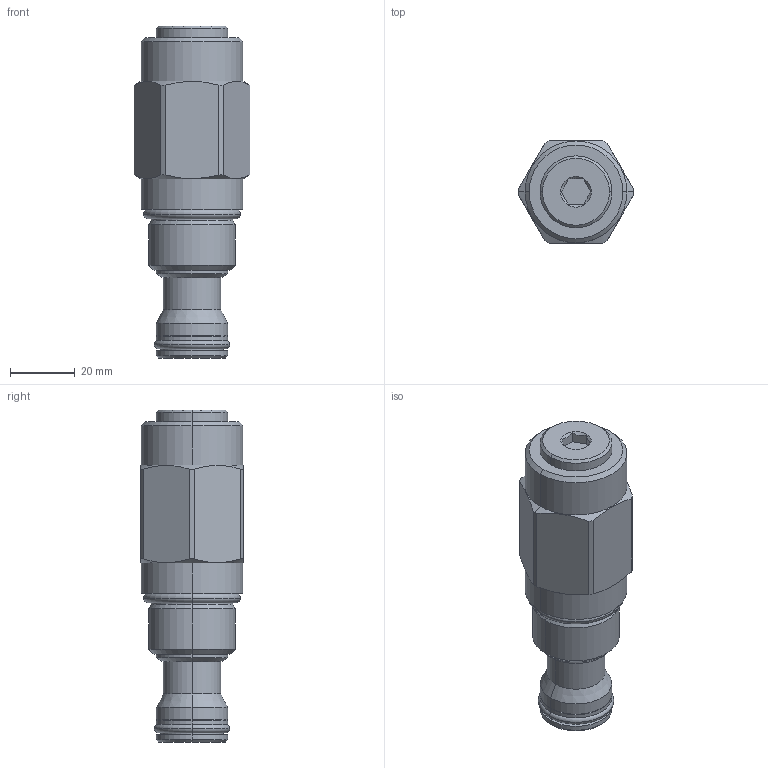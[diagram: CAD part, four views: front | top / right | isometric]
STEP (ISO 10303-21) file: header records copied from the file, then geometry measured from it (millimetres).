
FILE_DESCRIPTION((''),'2;1');
FILE_NAME('RV12-2XH','2014-04-10T',('mg1'),(''),'PRO/ENGINEER BY PARAMETRIC TECHNOLOGY CORPORATION, 2013230','PRO/ENGINEER BY PARAMETRIC TECHNOLOGY CORPORATION, 2013230','');
FILE_SCHEMA(('CONFIG_CONTROL_DESIGN'));
Length unit declared in the file: millimetre
Products named in the file (1): RV12-2XH
Bounding box: 35.81 x 31.75 x 102.72 mm (x, y, z)
Volume: 64657.4 mm3; surface area: 11797.2 mm2
Topology: 1 solids, 1 shells, 95 faces, 206 edges, 118 vertices
Faces by surface type: cylinder 34, cone 26, plane 19, torus 16
Entity records: 2709 total; most frequent: CARTESIAN_POINT 560, DIRECTION 488, ORIENTED_EDGE 412, EDGE_CURVE 206, AXIS2_PLACEMENT_3D 205, VERTEX_POINT 118, CIRCLE 110, EDGE_LOOP 100
